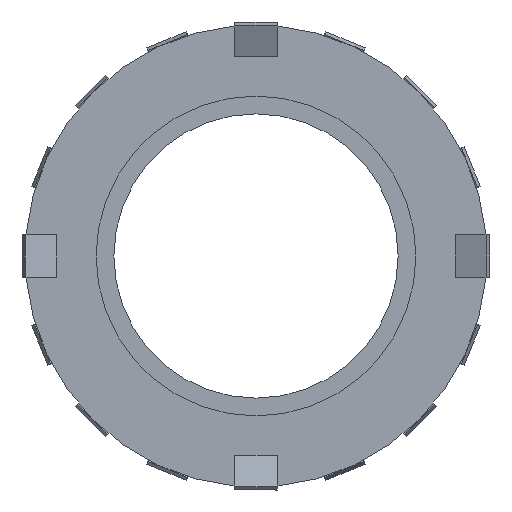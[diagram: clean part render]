
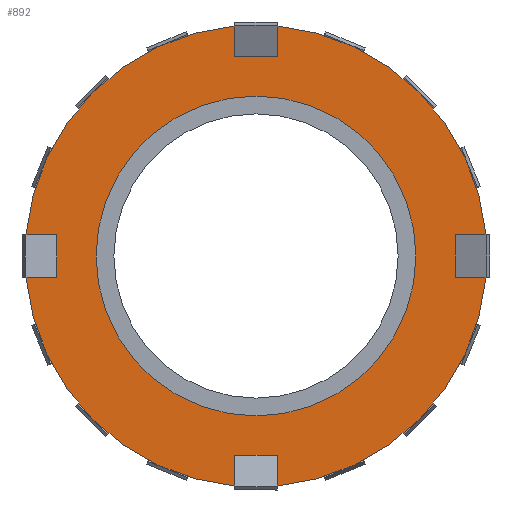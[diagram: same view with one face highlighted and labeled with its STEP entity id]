
A CAD part, left-side view. The second image highlights one B-rep face of the part: STEP entity #892.
In plain terms, the highlighted planar face has unit normal (-1, 0, 0).
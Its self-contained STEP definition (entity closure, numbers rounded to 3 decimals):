
#713 = EDGE_CURVE ( 'NONE', #714, #715, #2594, .T. ) ;
#714 = VERTEX_POINT ( 'NONE', #2511 ) ;
#715 = VERTEX_POINT ( 'NONE', #2510 ) ;
#819 = EDGE_CURVE ( 'NONE', #820, #821, #2681, .T. ) ;
#820 = VERTEX_POINT ( 'NONE', #2677 ) ;
#821 = VERTEX_POINT ( 'NONE', #2676 ) ;
#889 = VERTEX_POINT ( 'NONE', #3062 ) ;
#892 = ADVANCED_FACE ( 'NONE', ( #3044, #3043 ), #3038, .F. ) ;
#893 = EDGE_LOOP ( 'NONE', ( #894, #895 ) ) ;
#894 = ORIENTED_EDGE ( 'NONE', *, *, #923, .F. ) ;
#895 = ORIENTED_EDGE ( 'NONE', *, *, #1145, .F. ) ;
#896 = EDGE_LOOP ( 'NONE', ( #897, #1000, #1002, #1003, #899, #902, #904, #905, #908, #924, #926, #927, #930, #1125, #1127, #1128 ) ) ;
#897 = ORIENTED_EDGE ( 'NONE', *, *, #997, .F. ) ;
#898 = EDGE_CURVE ( 'NONE', #1004, #821, #3040, .T. ) ;
#899 = ORIENTED_EDGE ( 'NONE', *, *, #900, .F. ) ;
#900 = EDGE_CURVE ( 'NONE', #901, #1004, #2876, .T. ) ;
#901 = VERTEX_POINT ( 'NONE', #2867 ) ;
#902 = ORIENTED_EDGE ( 'NONE', *, *, #903, .F. ) ;
#903 = EDGE_CURVE ( 'NONE', #714, #901, #2864, .T. ) ;
#904 = ORIENTED_EDGE ( 'NONE', *, *, #713, .T. ) ;
#905 = ORIENTED_EDGE ( 'NONE', *, *, #906, .F. ) ;
#906 = EDGE_CURVE ( 'NONE', #907, #715, #2855, .T. ) ;
#907 = VERTEX_POINT ( 'NONE', #2849 ) ;
#908 = ORIENTED_EDGE ( 'NONE', *, *, #909, .F. ) ;
#909 = EDGE_CURVE ( 'NONE', #910, #907, #2845, .T. ) ;
#910 = VERTEX_POINT ( 'NONE', #2838 ) ;
#923 = EDGE_CURVE ( 'NONE', #1146, #940, #2986, .T. ) ;
#924 = ORIENTED_EDGE ( 'NONE', *, *, #925, .F. ) ;
#925 = EDGE_CURVE ( 'NONE', #1142, #910, #2976, .T. ) ;
#926 = ORIENTED_EDGE ( 'NONE', *, *, #1141, .T. ) ;
#927 = ORIENTED_EDGE ( 'NONE', *, *, #928, .F. ) ;
#928 = EDGE_CURVE ( 'NONE', #929, #1143, #2968, .T. ) ;
#929 = VERTEX_POINT ( 'NONE', #2962 ) ;
#930 = ORIENTED_EDGE ( 'NONE', *, *, #931, .F. ) ;
#931 = EDGE_CURVE ( 'NONE', #1124, #929, #2957, .T. ) ;
#940 = VERTEX_POINT ( 'NONE', #2916 ) ;
#997 = EDGE_CURVE ( 'NONE', #998, #999, #3120, .T. ) ;
#998 = VERTEX_POINT ( 'NONE', #3113 ) ;
#999 = VERTEX_POINT ( 'NONE', #3112 ) ;
#1000 = ORIENTED_EDGE ( 'NONE', *, *, #1001, .F. ) ;
#1001 = EDGE_CURVE ( 'NONE', #820, #998, #3107, .T. ) ;
#1002 = ORIENTED_EDGE ( 'NONE', *, *, #819, .T. ) ;
#1003 = ORIENTED_EDGE ( 'NONE', *, *, #898, .F. ) ;
#1004 = VERTEX_POINT ( 'NONE', #3102 ) ;
#1007 = VERTEX_POINT ( 'NONE', #3090 ) ;
#1009 = EDGE_CURVE ( 'NONE', #889, #1007, #3085, .T. ) ;
#1069 = EDGE_CURVE ( 'NONE', #999, #1007, #3608, .T. ) ;
#1124 = VERTEX_POINT ( 'NONE', #3772 ) ;
#1125 = ORIENTED_EDGE ( 'NONE', *, *, #1126, .F. ) ;
#1126 = EDGE_CURVE ( 'NONE', #889, #1124, #3768, .T. ) ;
#1127 = ORIENTED_EDGE ( 'NONE', *, *, #1009, .T. ) ;
#1128 = ORIENTED_EDGE ( 'NONE', *, *, #1069, .F. ) ;
#1141 = EDGE_CURVE ( 'NONE', #1142, #1143, #4004, .T. ) ;
#1142 = VERTEX_POINT ( 'NONE', #3984 ) ;
#1143 = VERTEX_POINT ( 'NONE', #3982 ) ;
#1145 = EDGE_CURVE ( 'NONE', #940, #1146, #3964, .T. ) ;
#1146 = VERTEX_POINT ( 'NONE', #3956 ) ;
#2510 = CARTESIAN_POINT ( 'NONE',  ( 5., -3., 32.361 ) ) ;
#2511 = CARTESIAN_POINT ( 'NONE',  ( 5., -32.361, 3. ) ) ;
#2512 = DIRECTION ( 'NONE',  ( 0., 0., 1. ) ) ;
#2513 = DIRECTION ( 'NONE',  ( -1., 0., 0. ) ) ;
#2514 = CARTESIAN_POINT ( 'NONE',  ( 5., 0., 0. ) ) ;
#2515 = AXIS2_PLACEMENT_3D ( 'NONE', #2514, #2513, #2512 ) ;
#2594 = CIRCLE ( 'NONE', #2515, 32.5 ) ;
#2634 = CARTESIAN_POINT ( 'NONE',  ( 5., 0., 0. ) ) ;
#2676 = CARTESIAN_POINT ( 'NONE',  ( 5., -32.361, -3. ) ) ;
#2677 = CARTESIAN_POINT ( 'NONE',  ( 5., -3., -32.361 ) ) ;
#2678 = DIRECTION ( 'NONE',  ( 0., 0., 1. ) ) ;
#2679 = DIRECTION ( 'NONE',  ( -1., 0., 0. ) ) ;
#2680 = AXIS2_PLACEMENT_3D ( 'NONE', #2634, #2679, #2678 ) ;
#2681 = CIRCLE ( 'NONE', #2680, 32.5 ) ;
#2838 = CARTESIAN_POINT ( 'NONE',  ( 5., 3., 28. ) ) ;
#2840 = DIRECTION ( 'NONE',  ( 0., -1., 0. ) ) ;
#2842 = VECTOR ( 'NONE', #2840, 1000. ) ;
#2843 = CARTESIAN_POINT ( 'NONE',  ( 5., 3., 28. ) ) ;
#2845 = LINE ( 'NONE', #2843, #2842 ) ;
#2849 = CARTESIAN_POINT ( 'NONE',  ( 5., -3., 28. ) ) ;
#2850 = DIRECTION ( 'NONE',  ( 0., 0., 1. ) ) ;
#2851 = VECTOR ( 'NONE', #2850, 1000. ) ;
#2854 = CARTESIAN_POINT ( 'NONE',  ( 5., -3., 32.361 ) ) ;
#2855 = LINE ( 'NONE', #2854, #2851 ) ;
#2858 = DIRECTION ( 'NONE',  ( 0., 1., 0. ) ) ;
#2860 = VECTOR ( 'NONE', #2858, 1000. ) ;
#2862 = CARTESIAN_POINT ( 'NONE',  ( 5., -32.361, 3. ) ) ;
#2864 = LINE ( 'NONE', #2862, #2860 ) ;
#2867 = CARTESIAN_POINT ( 'NONE',  ( 5., -28., 3. ) ) ;
#2870 = DIRECTION ( 'NONE',  ( 0., 0., -1. ) ) ;
#2872 = VECTOR ( 'NONE', #2870, 1000. ) ;
#2875 = CARTESIAN_POINT ( 'NONE',  ( 5., -28., 3. ) ) ;
#2876 = LINE ( 'NONE', #2875, #2872 ) ;
#2877 = DIRECTION ( 'NONE',  ( 0., -1., 0. ) ) ;
#2878 = VECTOR ( 'NONE', #2877, 1000. ) ;
#2916 = CARTESIAN_POINT ( 'NONE',  ( 5., 0., -22.5 ) ) ;
#2954 = DIRECTION ( 'NONE',  ( 0., 0., 1. ) ) ;
#2955 = VECTOR ( 'NONE', #2954, 1000. ) ;
#2956 = CARTESIAN_POINT ( 'NONE',  ( 5., 28., -3. ) ) ;
#2957 = LINE ( 'NONE', #2956, #2955 ) ;
#2962 = CARTESIAN_POINT ( 'NONE',  ( 5., 28., 3. ) ) ;
#2964 = DIRECTION ( 'NONE',  ( 0., 1., 0. ) ) ;
#2965 = VECTOR ( 'NONE', #2964, 1000. ) ;
#2966 = CARTESIAN_POINT ( 'NONE',  ( 5., 32.361, 3. ) ) ;
#2968 = LINE ( 'NONE', #2966, #2965 ) ;
#2973 = DIRECTION ( 'NONE',  ( 0., 0., -1. ) ) ;
#2974 = VECTOR ( 'NONE', #2973, 1000. ) ;
#2975 = CARTESIAN_POINT ( 'NONE',  ( 5., 3., 32.361 ) ) ;
#2976 = LINE ( 'NONE', #2975, #2974 ) ;
#2979 = DIRECTION ( 'NONE',  ( 0., 0., 1. ) ) ;
#2981 = DIRECTION ( 'NONE',  ( -1., 0., 0. ) ) ;
#2983 = CARTESIAN_POINT ( 'NONE',  ( 5., 0., 0. ) ) ;
#2985 = AXIS2_PLACEMENT_3D ( 'NONE', #2983, #2981, #2979 ) ;
#2986 = CIRCLE ( 'NONE', #2985, 22.5 ) ;
#3028 = CARTESIAN_POINT ( 'NONE',  ( 5., -32.361, -3. ) ) ;
#3031 = DIRECTION ( 'NONE',  ( 0., 0., -1. ) ) ;
#3033 = DIRECTION ( 'NONE',  ( 1., 0., 0. ) ) ;
#3034 = CARTESIAN_POINT ( 'NONE',  ( 5., 32.5, 0. ) ) ;
#3036 = AXIS2_PLACEMENT_3D ( 'NONE', #3034, #3033, #3031 ) ;
#3038 = PLANE ( 'NONE',  #3036 ) ;
#3040 = LINE ( 'NONE', #3028, #2878 ) ;
#3043 = FACE_OUTER_BOUND ( 'NONE', #896, .T. ) ;
#3044 = FACE_BOUND ( 'NONE', #893, .T. ) ;
#3062 = CARTESIAN_POINT ( 'NONE',  ( 5., 32.361, -3. ) ) ;
#3078 = DIRECTION ( 'NONE',  ( 0., 0., 1. ) ) ;
#3080 = DIRECTION ( 'NONE',  ( -1., 0., 0. ) ) ;
#3081 = CARTESIAN_POINT ( 'NONE',  ( 5., 0., 0. ) ) ;
#3083 = AXIS2_PLACEMENT_3D ( 'NONE', #3081, #3080, #3078 ) ;
#3085 = CIRCLE ( 'NONE', #3083, 32.5 ) ;
#3090 = CARTESIAN_POINT ( 'NONE',  ( 5., 3., -32.361 ) ) ;
#3102 = CARTESIAN_POINT ( 'NONE',  ( 5., -28., -3. ) ) ;
#3103 = DIRECTION ( 'NONE',  ( 0., 0., 1. ) ) ;
#3104 = VECTOR ( 'NONE', #3103, 1000. ) ;
#3106 = CARTESIAN_POINT ( 'NONE',  ( 5., -3., -32.361 ) ) ;
#3107 = LINE ( 'NONE', #3106, #3104 ) ;
#3112 = CARTESIAN_POINT ( 'NONE',  ( 5., 3., -28. ) ) ;
#3113 = CARTESIAN_POINT ( 'NONE',  ( 5., -3., -28. ) ) ;
#3115 = DIRECTION ( 'NONE',  ( 0., 1., 0. ) ) ;
#3116 = VECTOR ( 'NONE', #3115, 1000. ) ;
#3119 = CARTESIAN_POINT ( 'NONE',  ( 5., -3., -28. ) ) ;
#3120 = LINE ( 'NONE', #3119, #3116 ) ;
#3562 = DIRECTION ( 'NONE',  ( 0., 0., -1. ) ) ;
#3563 = VECTOR ( 'NONE', #3562, 1000. ) ;
#3565 = CARTESIAN_POINT ( 'NONE',  ( 5., 3., -32.361 ) ) ;
#3608 = LINE ( 'NONE', #3565, #3563 ) ;
#3766 = CARTESIAN_POINT ( 'NONE',  ( 5., 32.361, -3. ) ) ;
#3768 = LINE ( 'NONE', #3766, #4026 ) ;
#3772 = CARTESIAN_POINT ( 'NONE',  ( 5., 28., -3. ) ) ;
#3956 = CARTESIAN_POINT ( 'NONE',  ( 5., 0., 22.5 ) ) ;
#3959 = DIRECTION ( 'NONE',  ( 0., 0., 1. ) ) ;
#3961 = DIRECTION ( 'NONE',  ( -1., 0., 0. ) ) ;
#3963 = AXIS2_PLACEMENT_3D ( 'NONE', #3976, #3961, #3959 ) ;
#3964 = CIRCLE ( 'NONE', #3963, 22.5 ) ;
#3976 = CARTESIAN_POINT ( 'NONE',  ( 5., 0., 0. ) ) ;
#3982 = CARTESIAN_POINT ( 'NONE',  ( 5., 32.361, 3. ) ) ;
#3984 = CARTESIAN_POINT ( 'NONE',  ( 5., 3., 32.361 ) ) ;
#3987 = DIRECTION ( 'NONE',  ( 0., 0., 1. ) ) ;
#3989 = DIRECTION ( 'NONE',  ( -1., 0., 0. ) ) ;
#3990 = CARTESIAN_POINT ( 'NONE',  ( 5., 0., 0. ) ) ;
#3992 = AXIS2_PLACEMENT_3D ( 'NONE', #3990, #3989, #3987 ) ;
#4004 = CIRCLE ( 'NONE', #3992, 32.5 ) ;
#4024 = DIRECTION ( 'NONE',  ( 0., -1., 0. ) ) ;
#4026 = VECTOR ( 'NONE', #4024, 1000. ) ;
